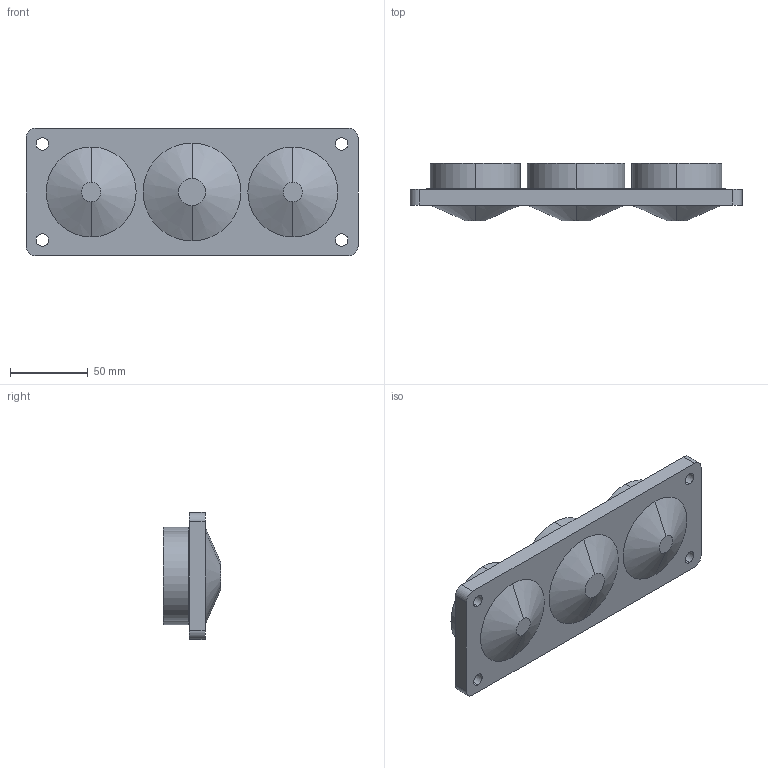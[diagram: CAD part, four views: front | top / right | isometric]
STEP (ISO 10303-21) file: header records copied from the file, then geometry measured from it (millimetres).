
FILE_DESCRIPTION (( 'STEP AP203' ), '1' );
FILE_NAME ('100234.STEP', '2012-12-10T13:27:13', ( 'Joni' ), ( 'Hewlett-Packard Company' ), 'SwSTEP 2.0', 'SolidWorks 2012', '' );
FILE_SCHEMA (( 'CONFIG_CONTROL_DESIGN' ));
Length unit declared in the file: millimetre
Products named in the file (1): 100234
Bounding box: 214 x 37.02 x 82 mm (x, y, z)
Volume: 345375.6 mm3; surface area: 54499.7 mm2
Topology: 1 solids, 1 shells, 63 faces, 140 edges, 92 vertices
Faces by surface type: cylinder 34, plane 23, cone 6
Entity records: 1875 total; most frequent: DIRECTION 348, CARTESIAN_POINT 296, ORIENTED_EDGE 280, AXIS2_PLACEMENT_3D 144, EDGE_CURVE 140, VERTEX_POINT 92, EDGE_LOOP 84, CIRCLE 80
